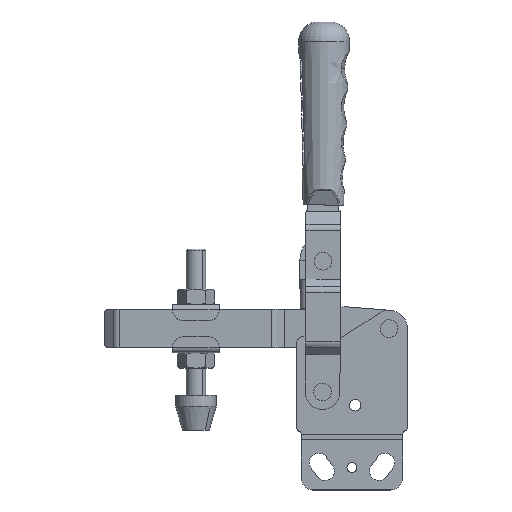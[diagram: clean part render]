
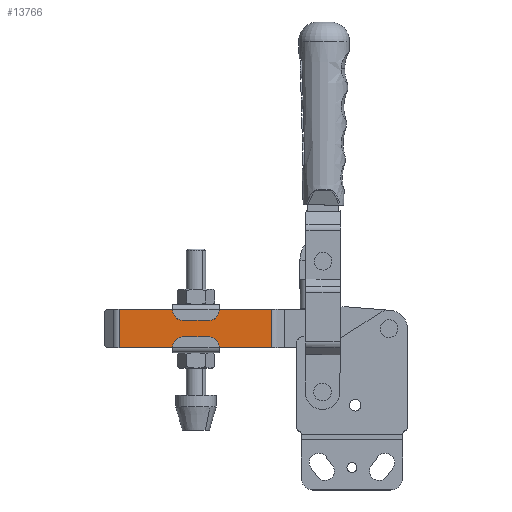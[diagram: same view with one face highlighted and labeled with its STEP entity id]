
A CAD part, top view. The second image highlights one B-rep face of the part: STEP entity #13766.
In plain terms, the highlighted planar face has unit normal (0, 0, 1).
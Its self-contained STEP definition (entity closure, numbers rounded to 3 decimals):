
#332 = CARTESIAN_POINT ( 'NONE',  ( -149.245, 13.311, 5. ) ) ;
#719 = CARTESIAN_POINT ( 'NONE',  ( -228.247, 20.311, 5. ) ) ;
#2175 = DIRECTION ( 'NONE',  ( 0., -1., 0. ) ) ;
#2211 = VERTEX_POINT ( 'NONE', #13462 ) ;
#2377 = VECTOR ( 'NONE', #10616, 1000. ) ;
#6178 = ORIENTED_EDGE ( 'NONE', *, *, #22458, .T. ) ;
#6256 = VERTEX_POINT ( 'NONE', #11294 ) ;
#6437 = ORIENTED_EDGE ( 'NONE', *, *, #8872, .T. ) ;
#6756 = DIRECTION ( 'NONE',  ( 1., 0., 0. ) ) ;
#7965 = LINE ( 'NONE', #18611, #16773 ) ;
#8701 = CARTESIAN_POINT ( 'NONE',  ( -116.911, 13.311, 5. ) ) ;
#8872 = EDGE_CURVE ( 'NONE', #10937, #2211, #19115, .T. ) ;
#10616 = DIRECTION ( 'NONE',  ( -1., 0., 0. ) ) ;
#10937 = VERTEX_POINT ( 'NONE', #11812 ) ;
#11294 = CARTESIAN_POINT ( 'NONE',  ( -149.245, 20.311, 5. ) ) ;
#11317 = AXIS2_PLACEMENT_3D ( 'NONE', #8701, #20954, #6756 ) ;
#11812 = CARTESIAN_POINT ( 'NONE',  ( -149.245, 40.311, 5. ) ) ;
#12012 = CARTESIAN_POINT ( 'NONE',  ( -234.911, 40.311, 5. ) ) ;
#12588 = DIRECTION ( 'NONE',  ( 1., 0., 0. ) ) ;
#12826 = LINE ( 'NONE', #14761, #18525 ) ;
#13234 = VERTEX_POINT ( 'NONE', #719 ) ;
#13462 = CARTESIAN_POINT ( 'NONE',  ( -228.247, 40.311, 5. ) ) ;
#13766 = ADVANCED_FACE ( 'NONE', ( #13956 ), #20850, .T. ) ;
#13956 = FACE_OUTER_BOUND ( 'NONE', #16611, .T. ) ;
#14257 = EDGE_CURVE ( 'NONE', #2211, #13234, #7965, .T. ) ;
#14761 = CARTESIAN_POINT ( 'NONE',  ( -234.911, 20.311, 5. ) ) ;
#16611 = EDGE_LOOP ( 'NONE', ( #6437, #19847, #6178, #17046 ) ) ;
#16773 = VECTOR ( 'NONE', #17415, 1000. ) ;
#17046 = ORIENTED_EDGE ( 'NONE', *, *, #21066, .F. ) ;
#17415 = DIRECTION ( 'NONE',  ( 0., -1., 0. ) ) ;
#18525 = VECTOR ( 'NONE', #12588, 1000. ) ;
#18611 = CARTESIAN_POINT ( 'NONE',  ( -228.247, 13.311, 5. ) ) ;
#19115 = LINE ( 'NONE', #12012, #2377 ) ;
#19620 = VECTOR ( 'NONE', #2175, 1000. ) ;
#19847 = ORIENTED_EDGE ( 'NONE', *, *, #14257, .T. ) ;
#20850 = PLANE ( 'NONE',  #11317 ) ;
#20954 = DIRECTION ( 'NONE',  ( 0., 0., 1. ) ) ;
#21066 = EDGE_CURVE ( 'NONE', #10937, #6256, #21313, .T. ) ;
#21313 = LINE ( 'NONE', #332, #19620 ) ;
#22458 = EDGE_CURVE ( 'NONE', #13234, #6256, #12826, .T. ) ;
